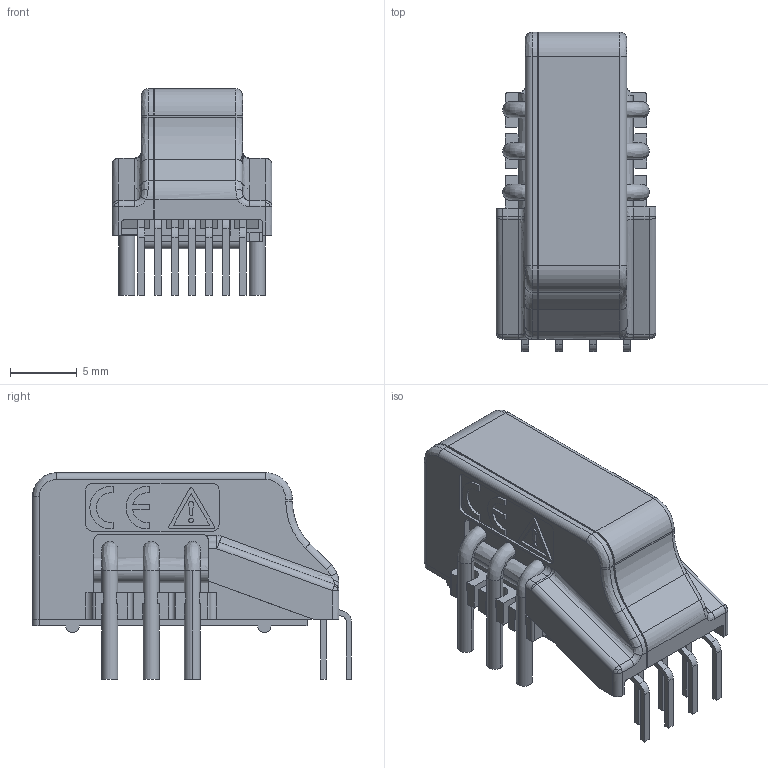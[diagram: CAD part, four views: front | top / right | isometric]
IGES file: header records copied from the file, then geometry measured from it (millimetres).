
Start section: Elysium IGES Interface
Global section: file name: 82HC:\Documents and Settings\tah\デスクトップ\3Ddata\Throughhole\HO_8-NP_BLACKBOX.igs; native system: CoCreate Modeling 17.00A  17-Jun-2010; preprocessor: CoCreate IGES_3D V2.2; author: Unknown; organization: Unknown; date: 20121115.165242; units: millimetre
Bounding box: 12 x 23.94 x 15.5 mm (x, y, z)
Volume: 2036.9 mm3; surface area: 1619.1 mm2
Topology: 1 solids, 1 shells, 489 faces, 1324 edges, 850 vertices
Faces by surface type: bspline 489
